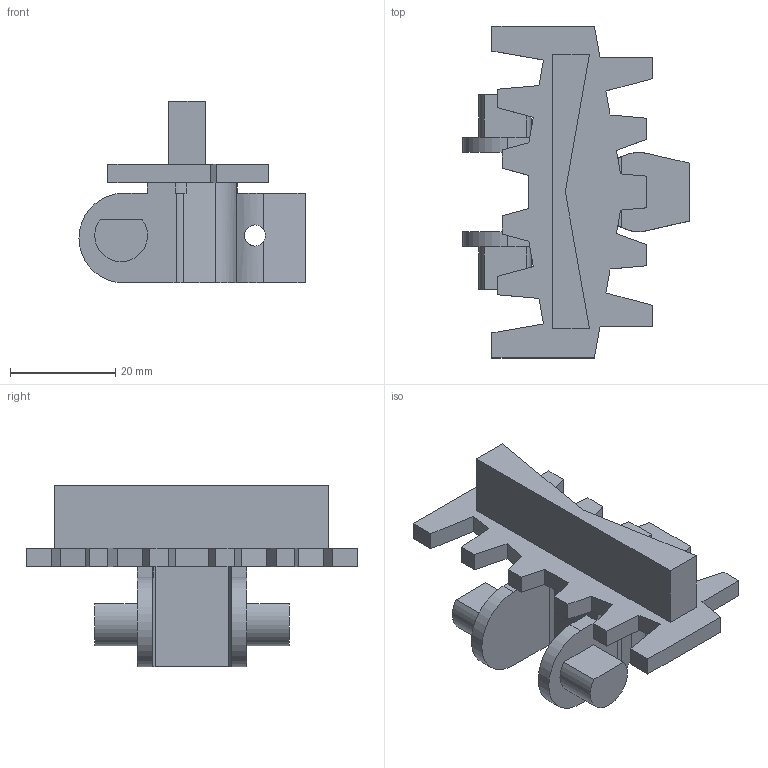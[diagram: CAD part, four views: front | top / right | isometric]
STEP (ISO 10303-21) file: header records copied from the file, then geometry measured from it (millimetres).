
FILE_DESCRIPTION (( 'STEP AP214' ), '1' );
FILE_NAME ('FSCT-5C-H12-P.STEP', '2011-09-28T07:57:59', ( '.' ), ( '' ), 'SwSTEP 2.0', 'SolidWorks 2010', '' );
FILE_SCHEMA (( 'AUTOMOTIVE_DESIGN' ));
Length unit declared in the file: millimetre
Products named in the file (1): FSCT-5C-H12-P
Bounding box: 42.9 x 63 x 34.5 mm (x, y, z)
Volume: 16359.5 mm3; surface area: 8881 mm2
Topology: 1 solids, 1 shells, 96 faces, 277 edges, 183 vertices
Faces by surface type: plane 82, cylinder 14
Entity records: 3231 total; most frequent: CARTESIAN_POINT 655, ORIENTED_EDGE 554, DIRECTION 491, EDGE_CURVE 277, VECTOR 241, LINE 241, VERTEX_POINT 183, AXIS2_PLACEMENT_3D 125
